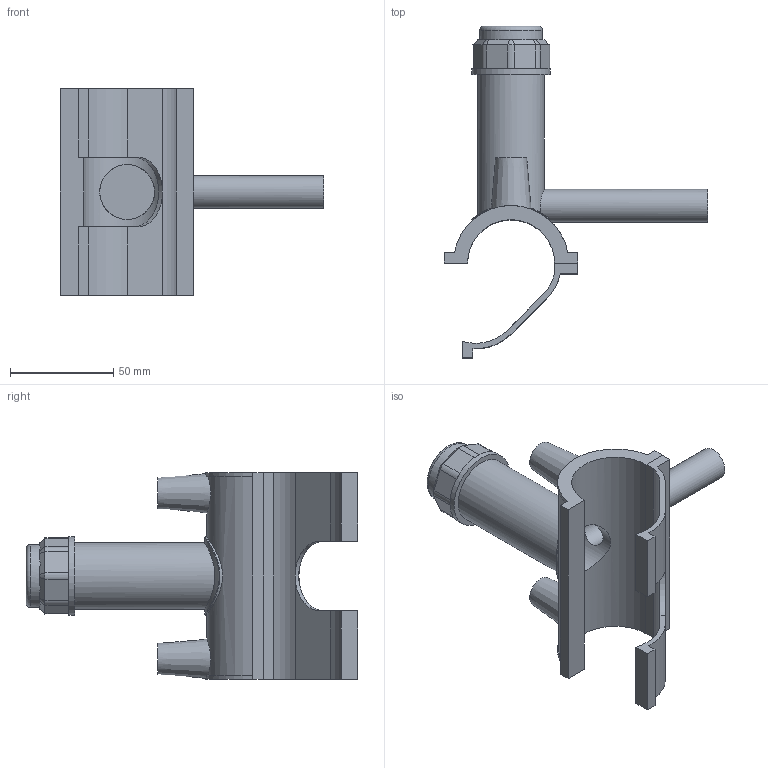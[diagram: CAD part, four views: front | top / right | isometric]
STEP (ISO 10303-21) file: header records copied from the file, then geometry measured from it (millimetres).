
FILE_DESCRIPTION(/* description */ ('PLASSON TAPPING SADDLE 1 1/4''''IPS x 1/2''''CTS'),/* implementation_level */ '2;1');
FILE_NAME(/* name */ 'C:\Dropbox\KIMPROJECTS-Inventor 2019\99-16-3568-Processing Inch\ASTM ElectroFusion 2021\5963B\5963BU03013005.ipt.stp',/* time_stamp */ '2021-08-30T09:55:53+03:00',/* author */ ('KIM'),/* organization */ (''),/* preprocessor_version */ 'ST-DEVELOPER v17.2',/* originating_system */ 'Autodesk Inventor 2019',/* authorisation */ '');
FILE_SCHEMA (('AUTOMOTIVE_DESIGN { 1 0 10303 214 3 1 1 }'));
Length unit declared in the file: millimetre
Products named in the file (1): 5963BU03013005
Bounding box: 127.25 x 160.41 x 100.08 mm (x, y, z)
Volume: 123163.1 mm3; surface area: 59836.4 mm2
Topology: 2 solids, 2 shells, 108 faces, 282 edges, 186 vertices
Faces by surface type: plane 65, cylinder 31, cone 10, torus 1, bspline 1
Full cylindrical faces by diameter (mm): 4 x2, 10 x2, 12.64 x1, 15.8 x1, 26.523 x1, 30.312 x1, 32.206 x1, 37.89 x2
Entity records: 3840 total; most frequent: CARTESIAN_POINT 1106, ORIENTED_EDGE 564, DIRECTION 564, EDGE_CURVE 282, AXIS2_PLACEMENT_3D 204, VERTEX_POINT 186, LINE 156, VECTOR 156
